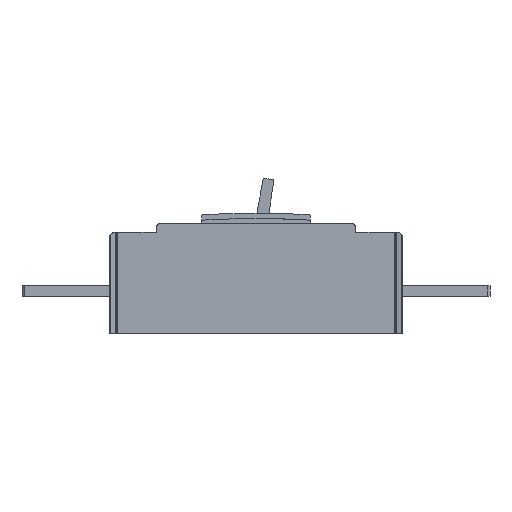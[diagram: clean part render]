
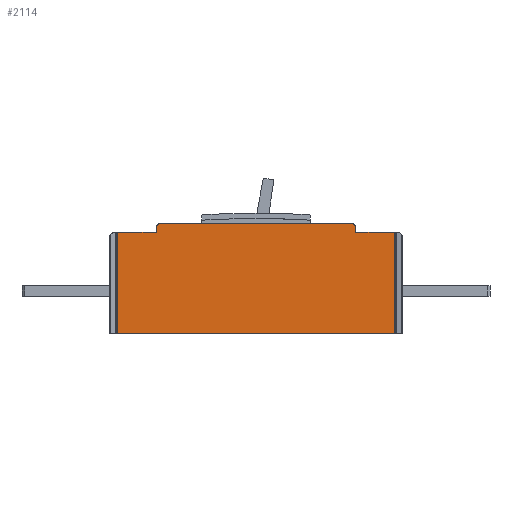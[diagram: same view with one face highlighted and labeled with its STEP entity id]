
A CAD part, left-side view. The second image highlights one B-rep face of the part: STEP entity #2114.
In plain terms, the highlighted planar face has unit normal (-1, 0, 0).
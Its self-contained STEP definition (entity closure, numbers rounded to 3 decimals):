
#212 = CARTESIAN_POINT ( 'NONE',  ( -105., 130.004, 0. ) ) ;
#427 = PLANE ( 'NONE',  #8193 ) ;
#584 = EDGE_CURVE ( 'NONE', #4829, #5738, #930, .T. ) ;
#775 = CARTESIAN_POINT ( 'NONE',  ( -105., 90.5, 100. ) ) ;
#793 = CARTESIAN_POINT ( 'NONE',  ( -105., 0., 103. ) ) ;
#856 = VERTEX_POINT ( 'NONE', #2183 ) ;
#873 = DIRECTION ( 'NONE',  ( 0., 0., -1. ) ) ;
#930 = LINE ( 'NONE', #966, #5254 ) ;
#958 = VERTEX_POINT ( 'NONE', #10750 ) ;
#966 = CARTESIAN_POINT ( 'NONE',  ( -105., 93.5, 0. ) ) ;
#1020 = LINE ( 'NONE', #9917, #9321 ) ;
#1128 = ORIENTED_EDGE ( 'NONE', *, *, #4434, .F. ) ;
#1179 = VECTOR ( 'NONE', #1936, 1000. ) ;
#1192 = EDGE_CURVE ( 'NONE', #7632, #856, #6028, .T. ) ;
#1210 = DIRECTION ( 'NONE',  ( 0., 0., -1. ) ) ;
#1235 = CARTESIAN_POINT ( 'NONE',  ( -105., -94.5, 96. ) ) ;
#1268 = CARTESIAN_POINT ( 'NONE',  ( -105., 0., 95. ) ) ;
#1291 = DIRECTION ( 'NONE',  ( 1., 0., 0. ) ) ;
#1337 = VERTEX_POINT ( 'NONE', #8053 ) ;
#1342 = VERTEX_POINT ( 'NONE', #4728 ) ;
#1403 = VECTOR ( 'NONE', #7463, 1000. ) ;
#1417 = LINE ( 'NONE', #10896, #7455 ) ;
#1429 = ORIENTED_EDGE ( 'NONE', *, *, #1192, .F. ) ;
#1438 = CARTESIAN_POINT ( 'NONE',  ( -105., -93.5, 96. ) ) ;
#1512 = CARTESIAN_POINT ( 'NONE',  ( -105., 0., 95. ) ) ;
#1596 = DIRECTION ( 'NONE',  ( 0., -1., 0. ) ) ;
#1751 = EDGE_CURVE ( 'NONE', #7632, #9193, #1020, .T. ) ;
#1936 = DIRECTION ( 'NONE',  ( 0., 0., 1. ) ) ;
#1990 = CARTESIAN_POINT ( 'NONE',  ( -105., -90.5, 100. ) ) ;
#2092 = DIRECTION ( 'NONE',  ( 0., 0., -1. ) ) ;
#2114 = ADVANCED_FACE ( 'NONE', ( #2988 ), #427, .F. ) ;
#2183 = CARTESIAN_POINT ( 'NONE',  ( -105., 130.004, 95. ) ) ;
#2219 = ORIENTED_EDGE ( 'NONE', *, *, #584, .F. ) ;
#2406 = CARTESIAN_POINT ( 'NONE',  ( -105., -90.5, 103. ) ) ;
#2577 = VECTOR ( 'NONE', #1596, 1000. ) ;
#2755 = EDGE_CURVE ( 'NONE', #1337, #5587, #7058, .T. ) ;
#2788 = ORIENTED_EDGE ( 'NONE', *, *, #1751, .T. ) ;
#2816 = CARTESIAN_POINT ( 'NONE',  ( -105., 0., 0. ) ) ;
#2841 = LINE ( 'NONE', #1512, #1403 ) ;
#2867 = VECTOR ( 'NONE', #873, 1000. ) ;
#2988 = FACE_OUTER_BOUND ( 'NONE', #5534, .T. ) ;
#3361 = ORIENTED_EDGE ( 'NONE', *, *, #6268, .F. ) ;
#3480 = DIRECTION ( 'NONE',  ( 0., 0., 1. ) ) ;
#3788 = EDGE_CURVE ( 'NONE', #856, #4829, #9077, .T. ) ;
#4185 = CARTESIAN_POINT ( 'NONE',  ( -105., 93.5, 95. ) ) ;
#4195 = DIRECTION ( 'NONE',  ( 1., 0., 0. ) ) ;
#4434 = EDGE_CURVE ( 'NONE', #5738, #1337, #7865, .T. ) ;
#4641 = DIRECTION ( 'NONE',  ( 1., 0., 0. ) ) ;
#4728 = CARTESIAN_POINT ( 'NONE',  ( -105., -130.004, 95. ) ) ;
#4829 = VERTEX_POINT ( 'NONE', #4185 ) ;
#4886 = AXIS2_PLACEMENT_3D ( 'NONE', #1235, #4641, #2092 ) ;
#4905 = CIRCLE ( 'NONE', #10833, 3. ) ;
#5171 = VERTEX_POINT ( 'NONE', #8140 ) ;
#5254 = VECTOR ( 'NONE', #3480, 1000. ) ;
#5347 = EDGE_CURVE ( 'NONE', #958, #7887, #7750, .T. ) ;
#5443 = ORIENTED_EDGE ( 'NONE', *, *, #5347, .F. ) ;
#5534 = EDGE_LOOP ( 'NONE', ( #1429, #2788, #9706, #3361, #9406, #5443, #7198, #7945, #1128, #2219, #5598 ) ) ;
#5587 = VERTEX_POINT ( 'NONE', #2406 ) ;
#5598 = ORIENTED_EDGE ( 'NONE', *, *, #3788, .F. ) ;
#5738 = VERTEX_POINT ( 'NONE', #7517 ) ;
#5826 = EDGE_CURVE ( 'NONE', #1342, #9193, #1417, .T. ) ;
#5923 = DIRECTION ( 'NONE',  ( 0., 0., -1. ) ) ;
#6028 = LINE ( 'NONE', #8776, #1179 ) ;
#6268 = EDGE_CURVE ( 'NONE', #5171, #1342, #2841, .T. ) ;
#6843 = AXIS2_PLACEMENT_3D ( 'NONE', #775, #4195, #8339 ) ;
#7058 = LINE ( 'NONE', #793, #2577 ) ;
#7198 = ORIENTED_EDGE ( 'NONE', *, *, #10736, .F. ) ;
#7455 = VECTOR ( 'NONE', #5923, 1000. ) ;
#7463 = DIRECTION ( 'NONE',  ( 0., -1., 0. ) ) ;
#7517 = CARTESIAN_POINT ( 'NONE',  ( -105., 93.5, 100.015 ) ) ;
#7596 = CIRCLE ( 'NONE', #4886, 1. ) ;
#7632 = VERTEX_POINT ( 'NONE', #212 ) ;
#7750 = LINE ( 'NONE', #10095, #2867 ) ;
#7865 = CIRCLE ( 'NONE', #6843, 3. ) ;
#7887 = VERTEX_POINT ( 'NONE', #1438 ) ;
#7945 = ORIENTED_EDGE ( 'NONE', *, *, #2755, .F. ) ;
#8053 = CARTESIAN_POINT ( 'NONE',  ( -105., 90.5, 103. ) ) ;
#8140 = CARTESIAN_POINT ( 'NONE',  ( -105., -94.5, 95. ) ) ;
#8193 = AXIS2_PLACEMENT_3D ( 'NONE', #2816, #9640, #1210 ) ;
#8311 = CARTESIAN_POINT ( 'NONE',  ( -105., -130.004, 0. ) ) ;
#8323 = DIRECTION ( 'NONE',  ( 0., -1., 0. ) ) ;
#8339 = DIRECTION ( 'NONE',  ( 0., 0., -1. ) ) ;
#8776 = CARTESIAN_POINT ( 'NONE',  ( -105., 130.004, 145.771 ) ) ;
#8818 = DIRECTION ( 'NONE',  ( 0., -1., 0. ) ) ;
#8981 = EDGE_CURVE ( 'NONE', #5171, #7887, #7596, .T. ) ;
#9077 = LINE ( 'NONE', #1268, #9205 ) ;
#9193 = VERTEX_POINT ( 'NONE', #8311 ) ;
#9205 = VECTOR ( 'NONE', #8818, 1000. ) ;
#9321 = VECTOR ( 'NONE', #8323, 1000. ) ;
#9406 = ORIENTED_EDGE ( 'NONE', *, *, #8981, .T. ) ;
#9640 = DIRECTION ( 'NONE',  ( 1., 0., 0. ) ) ;
#9706 = ORIENTED_EDGE ( 'NONE', *, *, #5826, .F. ) ;
#9917 = CARTESIAN_POINT ( 'NONE',  ( -105., 0., 0. ) ) ;
#10095 = CARTESIAN_POINT ( 'NONE',  ( -105., -93.5, 0. ) ) ;
#10588 = DIRECTION ( 'NONE',  ( 0., 0., -1. ) ) ;
#10736 = EDGE_CURVE ( 'NONE', #5587, #958, #4905, .T. ) ;
#10750 = CARTESIAN_POINT ( 'NONE',  ( -105., -93.5, 100. ) ) ;
#10833 = AXIS2_PLACEMENT_3D ( 'NONE', #1990, #1291, #10588 ) ;
#10896 = CARTESIAN_POINT ( 'NONE',  ( -105., -130.004, 145.771 ) ) ;
